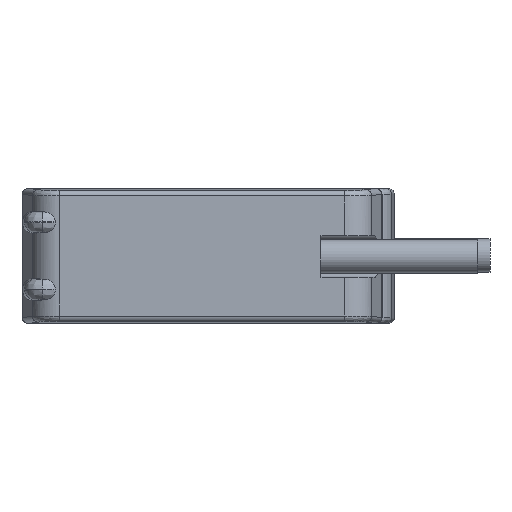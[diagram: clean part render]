
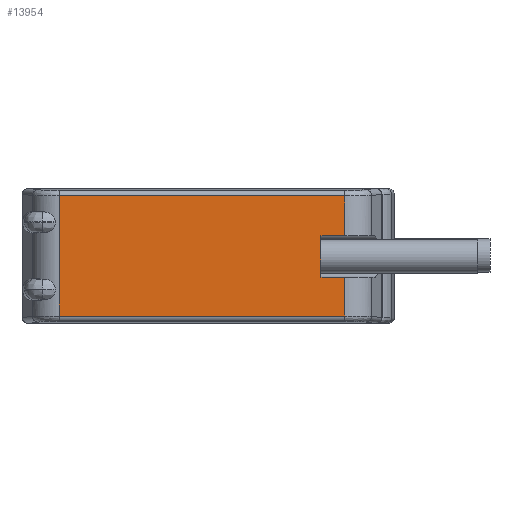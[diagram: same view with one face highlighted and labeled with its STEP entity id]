
A CAD part, front view. The second image highlights one B-rep face of the part: STEP entity #13954.
In plain terms, the highlighted planar face has unit normal (0, -1, 0) as drawn and (0, 1, 0) by its records, which use the part's own axes.
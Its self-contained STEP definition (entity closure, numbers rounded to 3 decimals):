
#122 = LINE ( 'NONE', #32760, #1778 ) ;
#406 = CARTESIAN_POINT ( 'NONE',  ( -0.019, 5.33, -0.006 ) ) ;
#743 = FACE_OUTER_BOUND ( 'NONE', #2190, .T. ) ;
#910 = DIRECTION ( 'NONE',  ( -1., 0., 0. ) ) ;
#1058 = LINE ( 'NONE', #8777, #20933 ) ;
#1223 = DIRECTION ( 'NONE',  ( 0., 0., -1. ) ) ;
#1410 = CARTESIAN_POINT ( 'NONE',  ( 10.602, 5.33, -1.81 ) ) ;
#1446 = LINE ( 'NONE', #21854, #31381 ) ;
#1778 = VECTOR ( 'NONE', #30405, 1000. ) ;
#2190 = EDGE_LOOP ( 'NONE', ( #18139, #11876, #28561, #27425, #17763, #7082, #19311, #6199 ) ) ;
#2808 = VECTOR ( 'NONE', #910, 1000. ) ;
#2920 = LINE ( 'NONE', #33018, #28645 ) ;
#4849 = VERTEX_POINT ( 'NONE', #1410 ) ;
#5452 = DIRECTION ( 'NONE',  ( 1., 0., 0. ) ) ;
#5710 = EDGE_CURVE ( 'NONE', #29328, #19124, #28855, .T. ) ;
#6199 = ORIENTED_EDGE ( 'NONE', *, *, #8640, .T. ) ;
#6985 = DIRECTION ( 'NONE',  ( 1., 0., 0. ) ) ;
#7082 = ORIENTED_EDGE ( 'NONE', *, *, #30180, .T. ) ;
#7151 = CARTESIAN_POINT ( 'NONE',  ( 12.713, 5.33, 1.894 ) ) ;
#7353 = CARTESIAN_POINT ( 'NONE',  ( -0.019, 5.33, 1.894 ) ) ;
#7555 = DIRECTION ( 'NONE',  ( 1., 0., 0. ) ) ;
#8146 = EDGE_CURVE ( 'NONE', #19124, #4849, #17655, .T. ) ;
#8640 = EDGE_CURVE ( 'NONE', #19338, #15902, #20434, .T. ) ;
#8777 = CARTESIAN_POINT ( 'NONE',  ( 12.713, 5.33, -0.006 ) ) ;
#9176 = CARTESIAN_POINT ( 'NONE',  ( 12.713, 5.33, 5.358 ) ) ;
#10283 = DIRECTION ( 'NONE',  ( 0., 0., -1. ) ) ;
#11876 = ORIENTED_EDGE ( 'NONE', *, *, #20174, .T. ) ;
#12891 = CARTESIAN_POINT ( 'NONE',  ( -0.019, 5.33, -1.81 ) ) ;
#13954 = ADVANCED_FACE ( 'NONE', ( #743 ), #31527, .T. ) ;
#14810 = CARTESIAN_POINT ( 'NONE',  ( 10.602, 5.33, -0.006 ) ) ;
#15331 = CARTESIAN_POINT ( 'NONE',  ( -12.75, 5.33, 5.358 ) ) ;
#15902 = VERTEX_POINT ( 'NONE', #32959 ) ;
#16188 = VERTEX_POINT ( 'NONE', #21726 ) ;
#16697 = CARTESIAN_POINT ( 'NONE',  ( 10.602, 5.33, 1.894 ) ) ;
#17597 = LINE ( 'NONE', #12891, #27184 ) ;
#17655 = LINE ( 'NONE', #14810, #22084 ) ;
#17763 = ORIENTED_EDGE ( 'NONE', *, *, #8146, .T. ) ;
#17813 = DIRECTION ( 'NONE',  ( 0., 0., -1. ) ) ;
#18139 = ORIENTED_EDGE ( 'NONE', *, *, #26395, .T. ) ;
#19124 = VERTEX_POINT ( 'NONE', #16697 ) ;
#19311 = ORIENTED_EDGE ( 'NONE', *, *, #24781, .T. ) ;
#19338 = VERTEX_POINT ( 'NONE', #31024 ) ;
#20174 = EDGE_CURVE ( 'NONE', #21412, #32059, #1446, .T. ) ;
#20434 = LINE ( 'NONE', #25440, #30532 ) ;
#20756 = DIRECTION ( 'NONE',  ( -1., 0., 0. ) ) ;
#20933 = VECTOR ( 'NONE', #1223, 1000. ) ;
#21412 = VERTEX_POINT ( 'NONE', #15331 ) ;
#21726 = CARTESIAN_POINT ( 'NONE',  ( 12.713, 5.33, -1.81 ) ) ;
#21854 = CARTESIAN_POINT ( 'NONE',  ( -0.019, 5.33, 5.358 ) ) ;
#22084 = VECTOR ( 'NONE', #17813, 1000. ) ;
#23415 = EDGE_CURVE ( 'NONE', #32059, #29328, #2920, .T. ) ;
#24781 = EDGE_CURVE ( 'NONE', #16188, #19338, #1058, .T. ) ;
#25440 = CARTESIAN_POINT ( 'NONE',  ( -0.019, 5.33, -5.37 ) ) ;
#26395 = EDGE_CURVE ( 'NONE', #15902, #21412, #122, .T. ) ;
#27184 = VECTOR ( 'NONE', #7555, 1000. ) ;
#27425 = ORIENTED_EDGE ( 'NONE', *, *, #5710, .T. ) ;
#28561 = ORIENTED_EDGE ( 'NONE', *, *, #23415, .T. ) ;
#28645 = VECTOR ( 'NONE', #10283, 1000. ) ;
#28855 = LINE ( 'NONE', #7353, #2808 ) ;
#29328 = VERTEX_POINT ( 'NONE', #7151 ) ;
#30180 = EDGE_CURVE ( 'NONE', #4849, #16188, #17597, .T. ) ;
#30405 = DIRECTION ( 'NONE',  ( 0., 0., 1. ) ) ;
#30532 = VECTOR ( 'NONE', #20756, 1000. ) ;
#31024 = CARTESIAN_POINT ( 'NONE',  ( 12.713, 5.33, -5.37 ) ) ;
#31026 = DIRECTION ( 'NONE',  ( 0., 1., 0. ) ) ;
#31381 = VECTOR ( 'NONE', #6985, 1000. ) ;
#31527 = PLANE ( 'NONE',  #32001 ) ;
#32001 = AXIS2_PLACEMENT_3D ( 'NONE', #406, #31026, #5452 ) ;
#32059 = VERTEX_POINT ( 'NONE', #9176 ) ;
#32760 = CARTESIAN_POINT ( 'NONE',  ( -12.75, 5.33, -0.006 ) ) ;
#32959 = CARTESIAN_POINT ( 'NONE',  ( -12.75, 5.33, -5.37 ) ) ;
#33018 = CARTESIAN_POINT ( 'NONE',  ( 12.713, 5.33, -0.006 ) ) ;
